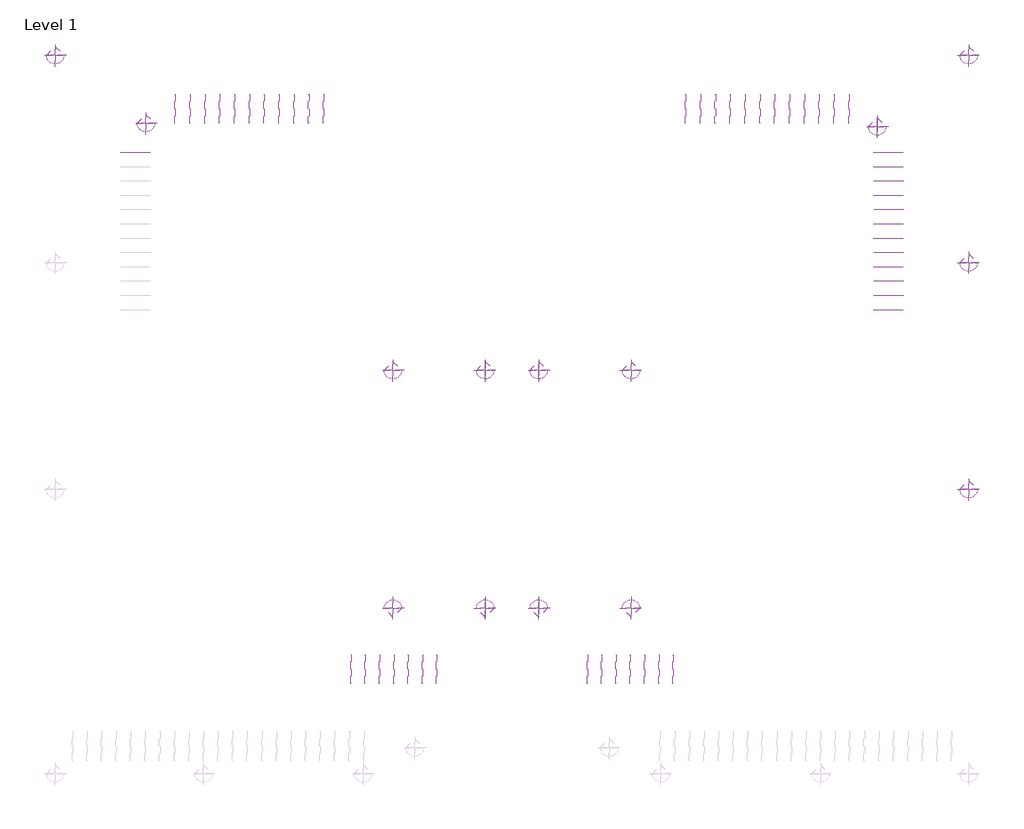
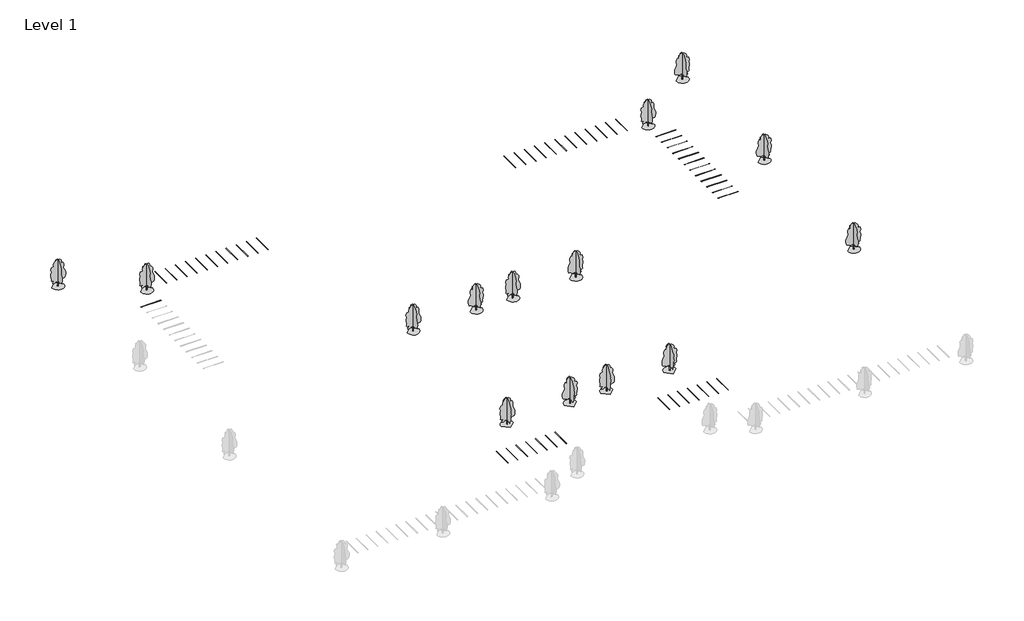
# One storey, part 2 of 2: 50 proxies, 14 geographic elements.
"""IFC4 building model written with IfcOpenShell, lengths in millimetres."""

import ifcopenshell
import ifcopenshell.guid

model = None  # the IFC model being written
_history = None  # IfcOwnerHistory: only IFC2X3 demands one
_inside = {}  # id of a spatial element -> (the spatial element, [elements in it])
_under = {}  # id of a project, library or spatial element -> (it, [spatial elements below it])
_declared = {}  # id of a project -> (the project, [libraries it declares])
_typed = {}  # id of a type object -> (the type object, [elements of that type])
_made_of = {}  # id of a material, layer set ... -> (it, [elements and type objects made of it])


def new_model(schema):
    """Start an empty IFC model of exactly this schema.

    Asked for "IFC4X3", IfcOpenShell would pick the latest addendum, in which some entities
    have other attributes; the version numbers below select the first issue.
    IFC2X3 requires an IfcOwnerHistory on every rooted entity: one is made here for all.
    """
    global model, _history
    if schema == "IFC4X3":
        model = ifcopenshell.file(schema_version=(4, 3, 0, 0))
    else:
        model = ifcopenshell.file(schema=schema)
    _inside.clear()
    _under.clear()
    _declared.clear()
    _typed.clear()
    _made_of.clear()
    _history = None
    if model.schema == "IFC2X3":
        org = make("IfcOrganization", Name="unknown")
        user = make(
            "IfcPersonAndOrganization",
            ThePerson=make("IfcPerson", FamilyName="unknown"),
            TheOrganization=org,
        )
        app = make(
            "IfcApplication",
            ApplicationDeveloper=org,
            Version="unknown",
            ApplicationFullName="unknown",
            ApplicationIdentifier="unknown",
        )
        _history = make(
            "IfcOwnerHistory",
            OwningUser=user,
            OwningApplication=app,
            ChangeAction="ADDED",
            CreationDate=0,
        )
    return model


def make(cls, **values):
    """One entity of the class cls with the attributes given. An attribute that is None is left unset."""
    return model.create_entity(
        cls, **{name: value for name, value in values.items() if value is not None}
    )


def rooted(cls, **values):
    """An entity with a GlobalId (a new one), such as an element, a storey or a relation."""
    return make(cls, GlobalId=ifcopenshell.guid.new(), OwnerHistory=_history, **values)


def si_unit(unit_type, name, prefix=None):
    """IfcSIUnit, for example si_unit("LENGTHUNIT", "METRE", prefix="MILLI")."""
    return make("IfcSIUnit", UnitType=unit_type, Prefix=prefix, Name=name)


def assignment(units):
    """IfcUnitAssignment: the units of a project."""
    return None if units is None else make("IfcUnitAssignment", Units=units)


def point(xyz):
    """IfcCartesianPoint."""
    return None if xyz is None else make("IfcCartesianPoint", Coordinates=xyz)


def direction(xyz):
    """IfcDirection."""
    return None if xyz is None else make("IfcDirection", DirectionRatios=xyz)


def frame(location, z_axis=None, x_axis=None):
    """IfcAxis2Placement3D, a coordinate frame: its origin and axes. An axis left out is left unset."""
    return make(
        "IfcAxis2Placement3D",
        Location=point(location),
        Axis=direction(z_axis),
        RefDirection=direction(x_axis),
    )


def origin():
    """The frame at (0, 0, 0) with its axes left unset."""
    return frame((0.0, 0.0, 0.0))


def origin_with_axes():
    """The frame at (0, 0, 0) with the z axis (0, 0, 1) and the x axis (1, 0, 0) written out."""
    return frame((0.0, 0.0, 0.0), z_axis=(0.0, 0.0, 1.0), x_axis=(1.0, 0.0, 0.0))


def place(relative_to, where):
    """IfcLocalPlacement: puts the frame where relative to a parent placement (None: the world)."""
    return make(
        "IfcLocalPlacement", PlacementRelTo=relative_to, RelativePlacement=where
    )


def context(
    kind, dimensions, precision=None, world=None, true_north=None, identifier=None
):
    """IfcGeometricRepresentationContext, for example the 3D "Model" context."""
    return make(
        "IfcGeometricRepresentationContext",
        ContextIdentifier=identifier,
        ContextType=kind,
        CoordinateSpaceDimension=dimensions,
        Precision=precision,
        WorldCoordinateSystem=world,
        TrueNorth=true_north,
    )


def project(units=None, contexts=None):
    """IfcProject with its units and contexts."""
    return rooted(
        "IfcProject",
        Name="project",
        RepresentationContexts=contexts,
        UnitsInContext=assignment(units),
    )


def spatial(cls, under=None, at=None, **own):
    """A site, building, storey or space (cls), placed at a placement, below another one or the project."""
    s = rooted(cls, ObjectPlacement=at, **own)
    if under is not None:
        _under.setdefault(under.id(), (under, []))[1].append(s)
    return s


def polyline(points):
    """IfcPolyline through the points."""
    return make("IfcPolyline", Points=[point(p) for p in points])


def point_list(points):
    """IfcCartesianPointList2D or 3D."""
    cls = (
        "IfcCartesianPointList2D" if len(points[0]) == 2 else "IfcCartesianPointList3D"
    )
    return make(cls, CoordList=points)


def outline(outer, holes=None, kind="AREA"):
    """IfcArbitraryClosedProfileDef: a profile drawn as a closed curve; with holes, ...WithVoids."""
    if holes is None:
        return make("IfcArbitraryClosedProfileDef", ProfileType=kind, OuterCurve=outer)
    return make(
        "IfcArbitraryProfileDefWithVoids",
        ProfileType=kind,
        OuterCurve=outer,
        InnerCurves=holes,
    )


def extrude(swept, where, along, depth):
    """IfcExtrudedAreaSolid: the profile swept, set in the frame where, extruded along a direction by depth."""
    return make(
        "IfcExtrudedAreaSolid",
        SweptArea=swept,
        Position=where,
        ExtrudedDirection=direction(along),
        Depth=depth,
    )


def triangles(points, corners, closed=None, point_numbers=None):
    """IfcTriangulatedFaceSet: each triangle names its three corners, points numbered from 1."""
    return make(
        "IfcTriangulatedFaceSet",
        Coordinates=point_list(points),
        Closed=closed,
        CoordIndex=corners,
        PnIndex=point_numbers,
    )


def shape(context_of_items, identifier, shape_type, items):
    """IfcShapeRepresentation: the items that make up one representation, for example the "Body"."""
    return make(
        "IfcShapeRepresentation",
        ContextOfItems=context_of_items,
        RepresentationIdentifier=identifier,
        RepresentationType=shape_type,
        Items=items,
    )


def source(mapping_origin, context_of_items, identifier, shape_type, items):
    """IfcRepresentationMap: a shape defined once, which mapped items show again and again."""
    return make(
        "IfcRepresentationMap",
        MappingOrigin=mapping_origin,
        MappedRepresentation=shape(context_of_items, identifier, shape_type, items),
    )


def transform(
    local_origin,
    x_axis=None,
    y_axis=None,
    z_axis=None,
    scale=None,
    scale2=None,
    scale3=None,
    uniform=True,
):
    """IfcCartesianTransformationOperator3D, or its non-uniform kind. x_axis, y_axis, z_axis: its Axis1, 2, 3."""
    if uniform:
        return make(
            "IfcCartesianTransformationOperator3D",
            Axis1=direction(x_axis),
            Axis2=direction(y_axis),
            LocalOrigin=point(local_origin),
            Scale=scale,
            Axis3=direction(z_axis),
        )
    return make(
        "IfcCartesianTransformationOperator3DnonUniform",
        Axis1=direction(x_axis),
        Axis2=direction(y_axis),
        LocalOrigin=point(local_origin),
        Scale=scale,
        Axis3=direction(z_axis),
        Scale2=scale2,
        Scale3=scale3,
    )


def mapped(mapping_source, mapping_target):
    """IfcMappedItem: shows the shape of a source again, moved by a transform."""
    return make(
        "IfcMappedItem", MappingSource=mapping_source, MappingTarget=mapping_target
    )


def made_of(thing, what):
    """Note that an element or type object is made of a material, layer set ...; save() writes the relation."""
    if what is not None:
        _made_of.setdefault(what.id(), (what, []))[1].append(thing)
    return thing


def element(
    cls,
    number,
    at=None,
    inside=None,
    cuts=None,
    type_object=None,
    material=None,
    context=None,
    identifier="Body",
    shape_type=None,
    held_by="IfcProductDefinitionShape",
    body=None,
    shapes=None,
    **own,
):
    """One element of the class cls, such as IfcWall. Its Tag is "e" and its number.

    at: its placement. inside: the storey or other place that contains it. cuts: it is an
    opening in that element (IfcRelVoidsElement). A single representation is given by context,
    identifier, shape_type and body (its items); several are given by shapes. held_by: the class
    of the entity that holds the representations. save() writes the other relations.
    """
    e = rooted(cls, Tag="e%d" % number, ObjectPlacement=at, **own)
    if body is not None:
        shapes = [shape(context, identifier, shape_type, body)]
    if shapes is not None:
        e.Representation = make(held_by, Representations=shapes)
    if inside is not None:
        _inside.setdefault(inside.id(), (inside, []))[1].append(e)
    if cuts is not None:
        rooted(
            "IfcRelVoidsElement", RelatingBuildingElement=cuts, RelatedOpeningElement=e
        )
    if type_object is not None:
        _typed.setdefault(type_object.id(), (type_object, []))[1].append(e)
    return made_of(e, material)


def aggregate(whole, parts):
    """IfcRelAggregates: a whole, such as a stair, and the parts it consists of."""
    return rooted("IfcRelAggregates", RelatingObject=whole, RelatedObjects=parts)


def save(model, path):
    """Write the relations noted so far, then the file.

    IfcRelAggregates (storeys below a building ...), IfcRelContainedInSpatialStructure (elements
    in a storey), IfcRelDefinesByType, IfcRelAssociatesMaterial and IfcRelDeclares: one each for
    every whole, place, type object, material and project.
    """
    for whole, parts in _under.values():
        aggregate(whole, parts)
    for where, things in _inside.values():
        rooted(
            "IfcRelContainedInSpatialStructure",
            RelatedElements=things,
            RelatingStructure=where,
        )
    for kind, things in _typed.values():
        rooted("IfcRelDefinesByType", RelatedObjects=things, RelatingType=kind)
    for what, things in _made_of.values():
        rooted("IfcRelAssociatesMaterial", RelatedObjects=things, RelatingMaterial=what)
    for by, libraries in _declared.values():
        rooted("IfcRelDeclares", RelatingContext=by, RelatedDefinitions=libraries)
    model.write(path)


def parking_space_9_x_18_90_deg_9fe051ab(model_context):
    return source(origin(), model_context, "Body", "SweptSolid", [
        extrude(outline(polyline([(-50.8, 0.0), (-50.8, 5486.4), (50.8, 5486.4), (50.8, 0.0), (-50.8, 0.0)])), origin_with_axes(), (0.0, 0.0, 1.0), 3.175),
    ])


def parking_space_9_x_18_90_deg_b8b21359(model_context):
    return source(origin(), model_context, "Body", "SweptSolid", [
        extrude(outline(polyline([(-50.8, 0.0), (50.8, 0.0), (50.8, -5486.4), (-50.8, -5486.4), (-50.8, 0.0)])), origin_with_axes(), (0.0, 0.0, 1.0), 3.175),
    ])


def rpc_tree_deciduous_red_ash_25_14781bec(model_context):
    return source(origin(), model_context, "Body", "Tessellation", [
        triangles([(-1644.9525009, 0.0, 6.19e-05), (-1601.4651844, -376.9143482, 6.19e-05), (-1477.6144592, -723.0498339, 6.19e-05), (-1283.3164352, -1028.4894024, 6.19e-05), (-1028.4894751, -1283.3165806, 6.19e-05), (-723.0496885, -1477.6140232, 6.19e-05), (-376.9141665, -1601.4651844, 6.19e-05), (7.19e-05, -1644.9525009, 6.19e-05), (376.9143846, -1601.4651844, 6.19e-05), (723.0499065, -1477.6143139, 6.19e-05), (1028.4894751, -1283.3164352, 6.19e-05), (1283.3168713, -1028.4894751, 6.19e-05), (1477.6141685, -723.0496159, 6.19e-05), (1601.4651844, -376.9140939, 6.19e-05), (1644.9525009, 0.0001438, 6.19e-05), (-0.0002157, 1644.9525009, 6.19e-05), (-1.07e-05, -102.8462569, 0.0), (2.5e-05, -101.2467179, 1194.554048), (3.23e-05, -129.8819613, 1537.8029366), (7e-07, -438.8253948, 1558.1655018), (-5.78e-05, -976.3912743, 1478.3068588), (-0.0001405, -1903.692667, 1948.6771305), (-0.0001413, -2011.2060173, 2298.095192), (-0.0001361, -2145.5975235, 2943.1744217), (-0.0001119, -2105.2803623, 3615.1319527), (-5.81e-05, -1740.3819958, 4141.0172951), (-5.5e-06, -1527.3986298, 5160.6350006), (-3.5e-06, -1715.5451397, 5886.3488434), (4.79e-05, -1406.4449661, 6531.4286545), (0.0001569, -626.9743755, 7458.7301926), (0.0001985, -273.2007115, 7618.1942963), (0.0002662, 394.4016166, 7552.8046829), (0.0003121, 1026.0418774, 6880.8468613), (0.0003149, 1214.190204, 6316.4022446), (0.0003323, 1496.411277, 5913.2274353), (0.0003598, 1805.5131947, 5751.9582092), (0.0003531, 1818.9521999, 5483.1746155), (0.0003523, 1899.587249, 5174.0742966), (0.0003275, 1765.1957428, 4811.2170845), (0.0003297, 1886.1480984, 4461.7991684), (0.0003279, 2007.1004539, 3977.9897461), (0.0003211, 1980.222298, 3843.5979492), (0.0002877, 1751.7567375, 3521.0580437), (0.0002729, 1737.3115437, 3077.5662186), (0.0002632, 1724.8782909, 2795.3439102), (0.0002542, 1738.3174416, 2445.9262848), (0.0002412, 1751.7568829, 1962.1167171), (0.0002172, 1563.6084835, 1814.2857697), (0.0001807, 1214.1907127, 1814.2857697), (0.0001827, 1375.4605202, 1317.0371967), (0.0001715, 1348.4951603, 1034.8845062), (0.0001516, 1103.0310734, 1227.8363914), (9.86e-05, 629.4626684, 1106.7075932), (9.8e-05, 551.7118183, 1357.0609165), (6.29e-05, 215.9127657, 1354.0025276), (5.03e-05, 130.8012366, 1228.3346169), (3.27e-05, 79.5493323, 818.2831198), (1.17e-05, 112.1660096, 1.28e-05), (-110.870867, 4.8e-06, 4.46e-05), (-66.7114758, -9.64e-05, 833.5016676), (-129.3072962, -0.000136, 1187.9435503), (-290.7878647, -0.00015, 1365.31768), (-483.6364677, -0.0001408, 1358.6964272), (-796.2678211, -0.000103, 1155.7673166), (-1427.9080456, -6.9e-05, 1102.0108595), (-1419.1706429, -7.35e-05, 1136.7646975), (-1409.8454853, -7.82e-05, 1172.6938271), (-1399.3449635, -8.32e-05, 1210.9736853), (-1387.0813225, -8.87e-05, 1252.7803631), (-1372.4668076, -9.49e-05, 1299.2876987), (-1354.9136639, -0.0001019, 1351.6733093), (-1333.8341366, -0.0001099, 1411.1111057), (-1307.2693336, -0.0001176, 1466.2392815), (-1274.3570984, -0.0001239, 1506.556588), (-1236.1555058, -0.0001289, 1534.5316246), (-1193.7220493, -0.0001329, 1552.6338627), (-1148.1152401, -0.0001362, 1563.3300121), (-1100.3923536, -0.000139, 1569.0895443), (-1051.6116829, -0.0001415, 1572.3809132), (-1199.4421944, -0.0001703, 1868.0423721), (-1629.4953049, -0.0001418, 1787.4073231), (-1871.3997253, -0.0001601, 2029.3124702), (-1723.5690685, -0.0001874, 2204.0214283), (-1763.886375, -0.0002433, 2687.8309959), (-1911.7170319, -0.0003442, 3588.2539421), (-1898.4807758, -0.0003892, 3961.1654823), (-1719.9175472, -0.0004688, 4563.3255295), (-1952.0346291, -0.0005347, 5200.9523071), (-1777.3253803, -0.000616, 5819.1535263), (-1414.4687496, -0.0006447, 5926.6667313), (-1138.413216, -0.0006626, 5975.3625961), (-1239.7599369, -0.0007228, 6517.9893585), (-930.6591093, -0.000802, 7068.9952606), (-352.7753057, -0.0008898, 7593.1219894), (117.5946844, -0.0009135, 7620.0), (534.2087442, -0.0009301, 7606.5601227), (883.626733, -0.0008893, 7136.1905777), (947.8720848, -0.00081, 6447.5180786), (938.6469212, -0.0007795, 6194.9695404), (1286.8011063, -0.0008333, 6517.9893585), (1622.7800171, -0.0007823, 5966.9840378), (1609.3410118, -0.0007196, 5446.5094116), (1549.4574577, -0.00064, 4800.6520317), (1743.7323727, -0.0005809, 4233.3331718), (2131.7640656, -0.0005067, 3469.1978371), (2144.1354034, -0.0004386, 2892.8094727), (2066.2719875, -0.0003531, 2204.021283), (1945.319632, -0.0003141, 1921.7989746), (1703.4147755, -0.0003004, 1894.9206734), (1233.0446491, -0.0002542, 1679.8941181), (816.4305439, -0.0002007, 1384.2328045), (257.4765441, -0.0002049, 1624.5688614), (93.0508701, -0.0001766, 1447.6347485), (104.1552431, -4.6e-06, 3.52e-05)], [[15, 16, 1], [14, 15, 1], [14, 1, 2], [13, 14, 2], [13, 2, 3], [13, 3, 4], [12, 13, 4], [11, 12, 4], [11, 4, 5], [11, 5, 6], [11, 6, 7], [11, 7, 8], [11, 8, 9], [11, 9, 10], [50, 51, 52], [57, 58, 17], [57, 17, 18], [56, 57, 18], [56, 18, 19], [55, 56, 19], [49, 50, 52], [52, 53, 54], [49, 52, 54], [35, 36, 37], [46, 47, 48], [46, 48, 49], [21, 22, 23], [20, 21, 23], [20, 23, 24], [20, 24, 25], [20, 25, 26], [19, 20, 26], [19, 26, 27], [45, 46, 49], [31, 32, 33], [30, 31, 33], [29, 30, 33], [29, 33, 34], [28, 29, 34], [27, 28, 34], [19, 27, 34], [19, 34, 35], [19, 35, 37], [19, 37, 38], [19, 38, 39], [19, 39, 40], [19, 40, 41], [19, 41, 42], [19, 42, 43], [19, 43, 44], [19, 44, 45], [19, 45, 49], [19, 49, 54], [55, 19, 54], [64, 65, 66], [64, 66, 67], [64, 67, 68], [99, 100, 101], [64, 68, 69], [64, 69, 70], [64, 70, 71], [114, 59, 60], [113, 114, 60], [113, 60, 61], [113, 61, 62], [64, 71, 72], [64, 72, 73], [64, 73, 74], [64, 74, 75], [64, 75, 76], [64, 76, 77], [64, 77, 78], [64, 78, 79], [63, 64, 79], [81, 82, 83], [80, 81, 83], [99, 101, 102], [107, 108, 109], [110, 111, 112], [88, 89, 90], [87, 88, 90], [87, 90, 91], [80, 83, 84], [95, 96, 97], [95, 97, 98], [94, 95, 98], [93, 94, 98], [92, 93, 98], [91, 92, 98], [91, 98, 99], [87, 91, 99], [87, 99, 102], [87, 102, 103], [87, 103, 104], [86, 87, 104], [85, 86, 104], [84, 85, 104], [80, 84, 104], [80, 104, 105], [80, 105, 106], [80, 106, 107], [80, 107, 109], [80, 109, 110], [80, 110, 112], [79, 80, 112], [63, 79, 112], [62, 63, 112], [113, 62, 112]], closed=False),
    ])


def rpc_tree_deciduous_red_ash_25_de8497d4(model_context):
    return source(origin(), model_context, "Body", "Tessellation", [
        triangles([(-1644.9525009, 0.0, 6.19e-05), (-1601.4651844, 376.9143482, 6.19e-05), (-1477.6144592, 723.0498339, 6.19e-05), (-1283.3164352, 1028.4894024, 6.19e-05), (-1028.4894751, 1283.3165806, 6.19e-05), (-723.0496885, 1477.6140232, 6.19e-05), (-376.9141665, 1601.4651844, 6.19e-05), (7.19e-05, 1644.9525009, 6.19e-05), (376.9143846, 1601.4651844, 6.19e-05), (723.0499065, 1477.6143139, 6.19e-05), (1028.4894751, 1283.3164352, 6.19e-05), (1283.3168713, 1028.4894751, 6.19e-05), (1477.6141685, 723.0496159, 6.19e-05), (1601.4651844, 376.9140939, 6.19e-05), (1644.9525009, -0.0001438, 6.19e-05), (-0.0002157, -1644.9525009, 6.19e-05), (-1.07e-05, 102.8462569, 0.0), (2.5e-05, 101.2467179, 1194.554048), (3.23e-05, 129.8819613, 1537.8029366), (7e-07, 438.8253948, 1558.1655018), (-5.78e-05, 976.3912743, 1478.3068588), (-0.0001405, 1903.692667, 1948.6771305), (-0.0001413, 2011.2060173, 2298.095192), (-0.0001361, 2145.5975235, 2943.1744217), (-0.0001119, 2105.2803623, 3615.1319527), (-5.81e-05, 1740.3819958, 4141.0172951), (-5.5e-06, 1527.3986298, 5160.6350006), (-3.5e-06, 1715.5451397, 5886.3488434), (4.79e-05, 1406.4449661, 6531.4286545), (0.0001569, 626.9743755, 7458.7301926), (0.0001985, 273.2007115, 7618.1942963), (0.0002662, -394.4016166, 7552.8046829), (0.0003121, -1026.0418774, 6880.8468613), (0.0003149, -1214.190204, 6316.4022446), (0.0003323, -1496.411277, 5913.2274353), (0.0003598, -1805.5131947, 5751.9582092), (0.0003531, -1818.9521999, 5483.1746155), (0.0003523, -1899.587249, 5174.0742966), (0.0003275, -1765.1957428, 4811.2170845), (0.0003297, -1886.1480984, 4461.7991684), (0.0003279, -2007.1004539, 3977.9897461), (0.0003211, -1980.222298, 3843.5979492), (0.0002877, -1751.7567375, 3521.0580437), (0.0002729, -1737.3115437, 3077.5662186), (0.0002632, -1724.8782909, 2795.3439102), (0.0002542, -1738.3174416, 2445.9262848), (0.0002412, -1751.7568829, 1962.1167171), (0.0002172, -1563.6084835, 1814.2857697), (0.0001807, -1214.1907127, 1814.2857697), (0.0001827, -1375.4605202, 1317.0371967), (0.0001715, -1348.4951603, 1034.8845062), (0.0001516, -1103.0310734, 1227.8363914), (9.86e-05, -629.4626684, 1106.7075932), (9.8e-05, -551.7118183, 1357.0609165), (6.29e-05, -215.9127657, 1354.0025276), (5.03e-05, -130.8012366, 1228.3346169), (3.27e-05, -79.5493323, 818.2831198), (1.17e-05, -112.1660096, 1.28e-05), (-110.870867, -4.8e-06, 4.46e-05), (-66.7114758, 9.64e-05, 833.5016676), (-129.3072962, 0.000136, 1187.9435503), (-290.7878647, 0.00015, 1365.31768), (-483.6364677, 0.0001408, 1358.6964272), (-796.2678211, 0.000103, 1155.7673166), (-1427.9080456, 6.9e-05, 1102.0108595), (-1419.1706429, 7.35e-05, 1136.7646975), (-1409.8454853, 7.82e-05, 1172.6938271), (-1399.3449635, 8.32e-05, 1210.9736853), (-1387.0813225, 8.87e-05, 1252.7803631), (-1372.4668076, 9.49e-05, 1299.2876987), (-1354.9136639, 0.0001019, 1351.6733093), (-1333.8341366, 0.0001099, 1411.1111057), (-1307.2693336, 0.0001176, 1466.2392815), (-1274.3570984, 0.0001239, 1506.556588), (-1236.1555058, 0.0001289, 1534.5316246), (-1193.7220493, 0.0001329, 1552.6338627), (-1148.1152401, 0.0001362, 1563.3300121), (-1100.3923536, 0.000139, 1569.0895443), (-1051.6116829, 0.0001415, 1572.3809132), (-1199.4421944, 0.0001703, 1868.0423721), (-1629.4953049, 0.0001418, 1787.4073231), (-1871.3997253, 0.0001601, 2029.3124702), (-1723.5690685, 0.0001874, 2204.0214283), (-1763.886375, 0.0002433, 2687.8309959), (-1911.7170319, 0.0003442, 3588.2539421), (-1898.4807758, 0.0003892, 3961.1654823), (-1719.9175472, 0.0004688, 4563.3255295), (-1952.0346291, 0.0005347, 5200.9523071), (-1777.3253803, 0.000616, 5819.1535263), (-1414.4687496, 0.0006447, 5926.6667313), (-1138.413216, 0.0006626, 5975.3625961), (-1239.7599369, 0.0007228, 6517.9893585), (-930.6591093, 0.000802, 7068.9952606), (-352.7753057, 0.0008898, 7593.1219894), (117.5946844, 0.0009135, 7620.0), (534.2087442, 0.0009301, 7606.5601227), (883.626733, 0.0008893, 7136.1905777), (947.8720848, 0.00081, 6447.5180786), (938.6469212, 0.0007795, 6194.9695404), (1286.8011063, 0.0008333, 6517.9893585), (1622.7800171, 0.0007823, 5966.9840378), (1609.3410118, 0.0007196, 5446.5094116), (1549.4574577, 0.00064, 4800.6520317), (1743.7323727, 0.0005809, 4233.3331718), (2131.7640656, 0.0005067, 3469.1978371), (2144.1354034, 0.0004386, 2892.8094727), (2066.2719875, 0.0003531, 2204.021283), (1945.319632, 0.0003141, 1921.7989746), (1703.4147755, 0.0003004, 1894.9206734), (1233.0446491, 0.0002542, 1679.8941181), (816.4305439, 0.0002007, 1384.2328045), (257.4765441, 0.0002049, 1624.5688614), (93.0508701, 0.0001766, 1447.6347485), (104.1552431, 4.6e-06, 3.52e-05)], [[16, 15, 1], [15, 14, 1], [1, 14, 2], [14, 13, 2], [2, 13, 3], [3, 13, 4], [13, 12, 4], [12, 11, 4], [4, 11, 5], [5, 11, 6], [6, 11, 7], [7, 11, 8], [8, 11, 9], [9, 11, 10], [51, 50, 52], [58, 57, 17], [17, 57, 18], [57, 56, 18], [18, 56, 19], [56, 55, 19], [50, 49, 52], [53, 52, 54], [52, 49, 54], [36, 35, 37], [47, 46, 48], [48, 46, 49], [22, 21, 23], [21, 20, 23], [23, 20, 24], [24, 20, 25], [25, 20, 26], [20, 19, 26], [26, 19, 27], [46, 45, 49], [32, 31, 33], [31, 30, 33], [30, 29, 33], [33, 29, 34], [29, 28, 34], [28, 27, 34], [27, 19, 34], [34, 19, 35], [35, 19, 37], [37, 19, 38], [38, 19, 39], [39, 19, 40], [40, 19, 41], [41, 19, 42], [42, 19, 43], [43, 19, 44], [44, 19, 45], [45, 19, 49], [49, 19, 54], [19, 55, 54], [65, 64, 66], [66, 64, 67], [67, 64, 68], [100, 99, 101], [68, 64, 69], [69, 64, 70], [70, 64, 71], [59, 114, 60], [114, 113, 60], [60, 113, 61], [61, 113, 62], [71, 64, 72], [72, 64, 73], [73, 64, 74], [74, 64, 75], [75, 64, 76], [76, 64, 77], [77, 64, 78], [78, 64, 79], [64, 63, 79], [82, 81, 83], [81, 80, 83], [101, 99, 102], [108, 107, 109], [111, 110, 112], [89, 88, 90], [88, 87, 90], [90, 87, 91], [83, 80, 84], [96, 95, 97], [97, 95, 98], [95, 94, 98], [94, 93, 98], [93, 92, 98], [92, 91, 98], [98, 91, 99], [91, 87, 99], [99, 87, 102], [102, 87, 103], [103, 87, 104], [87, 86, 104], [86, 85, 104], [85, 84, 104], [84, 80, 104], [104, 80, 105], [105, 80, 106], [106, 80, 107], [107, 80, 109], [109, 80, 110], [110, 80, 112], [80, 79, 112], [79, 63, 112], [63, 62, 112], [62, 113, 112]], closed=False),
    ])


model = new_model("IFC4")

# Units and contexts
model_context = context("Model", 3, world=origin())
ifc_project = project(units=[si_unit("LENGTHUNIT", "METRE", prefix="MILLI")], contexts=[model_context])

# Site, building, storey
site = spatial("IfcSite", under=ifc_project)
building = spatial("IfcBuilding", under=site)
storey = spatial("IfcBuildingStorey", under=building, Name="Level 1", Elevation=0.0)

# Proxies
placement = place(None, origin())
parking_space_9_x_18_90_deg_shape = parking_space_9_x_18_90_deg_9fe051ab(model_context)
element("IfcBuildingElementProxy", 1, Name="Parking Space : 9' x 18' - 90 deg", ObjectType="Parking Space : 9' x 18' - 90 deg", at=placement, inside=storey, context=model_context, shape_type="MappedRepresentation", body=[
    mapped(parking_space_9_x_18_90_deg_shape, transform((-26963.9619016, -16596.3218628, 3124.2), x_axis=(-1.0, 0.0, 0.0), y_axis=(0.0, -1.0, 0.0), z_axis=(0.0, 0.0, 1.0))),
])
element("IfcBuildingElementProxy", 2, Name="Parking Space : 9' x 18' - 90 deg", ObjectType="Parking Space : 9' x 18' - 90 deg", at=placement, inside=storey, context=model_context, shape_type="MappedRepresentation", body=[
    mapped(parking_space_9_x_18_90_deg_shape, transform((-29757.9619016, -16596.3218628, 3124.2), x_axis=(-1.0, 0.0, 0.0), y_axis=(0.0, -1.0, 0.0), z_axis=(0.0, 0.0, 1.0))),
])
element("IfcBuildingElementProxy", 3, Name="Parking Space : 9' x 18' - 90 deg", ObjectType="Parking Space : 9' x 18' - 90 deg", at=placement, inside=storey, context=model_context, shape_type="MappedRepresentation", body=[
    mapped(parking_space_9_x_18_90_deg_shape, transform((-32551.9619016, -16596.3218628, 3124.2), x_axis=(-1.0, 0.0, 0.0), y_axis=(0.0, -1.0, 0.0), z_axis=(0.0, 0.0, 1.0))),
])
element("IfcBuildingElementProxy", 4, Name="Parking Space : 9' x 18' - 90 deg", ObjectType="Parking Space : 9' x 18' - 90 deg", at=placement, inside=storey, context=model_context, shape_type="MappedRepresentation", body=[
    mapped(parking_space_9_x_18_90_deg_shape, transform((-35345.9619016, -16596.3218628, 3124.2), x_axis=(-1.0, 0.0, 0.0), y_axis=(0.0, -1.0, 0.0), z_axis=(0.0, 0.0, 1.0))),
])
element("IfcBuildingElementProxy", 5, Name="Parking Space : 9' x 18' - 90 deg", ObjectType="Parking Space : 9' x 18' - 90 deg", at=placement, inside=storey, context=model_context, shape_type="MappedRepresentation", body=[
    mapped(parking_space_9_x_18_90_deg_shape, transform((-38139.9619016, -16596.3218628, 3124.2), x_axis=(-1.0, 0.0, 0.0), y_axis=(0.0, -1.0, 0.0), z_axis=(0.0, 0.0, 1.0))),
])
element("IfcBuildingElementProxy", 6, Name="Parking Space : 9' x 18' - 90 deg", ObjectType="Parking Space : 9' x 18' - 90 deg", at=placement, inside=storey, context=model_context, shape_type="MappedRepresentation", body=[
    mapped(parking_space_9_x_18_90_deg_shape, transform((-40933.9619016, -16596.3218628, 3124.2), x_axis=(-1.0, 0.0, 0.0), y_axis=(0.0, -1.0, 0.0), z_axis=(0.0, 0.0, 1.0))),
])
element("IfcBuildingElementProxy", 7, Name="Parking Space : 9' x 18' - 90 deg", ObjectType="Parking Space : 9' x 18' - 90 deg", at=placement, inside=storey, context=model_context, shape_type="MappedRepresentation", body=[
    mapped(parking_space_9_x_18_90_deg_shape, transform((-43727.9619016, -16596.3218628, 3124.2), x_axis=(-1.0, 0.0, 0.0), y_axis=(0.0, -1.0, 0.0), z_axis=(0.0, 0.0, 1.0))),
])
element("IfcBuildingElementProxy", 8, Name="Parking Space : 9' x 18' - 90 deg", ObjectType="Parking Space : 9' x 18' - 90 deg", at=placement, inside=storey, context=model_context, shape_type="MappedRepresentation", body=[
    mapped(parking_space_9_x_18_90_deg_shape, transform((-46521.9619016, -16596.3218628, 3124.2), x_axis=(-1.0, 0.0, 0.0), y_axis=(0.0, -1.0, 0.0), z_axis=(0.0, 0.0, 1.0))),
])
element("IfcBuildingElementProxy", 9, Name="Parking Space : 9' x 18' - 90 deg", ObjectType="Parking Space : 9' x 18' - 90 deg", at=placement, inside=storey, context=model_context, shape_type="MappedRepresentation", body=[
    mapped(parking_space_9_x_18_90_deg_shape, transform((-49315.9619016, -16596.3218628, 3124.2), x_axis=(-1.0, 0.0, 0.0), y_axis=(0.0, -1.0, 0.0), z_axis=(0.0, 0.0, 1.0))),
])
element("IfcBuildingElementProxy", 10, Name="Parking Space : 9' x 18' - 90 deg", ObjectType="Parking Space : 9' x 18' - 90 deg", at=placement, inside=storey, context=model_context, shape_type="MappedRepresentation", body=[
    mapped(parking_space_9_x_18_90_deg_shape, transform((-52109.9619016, -16596.3218628, 3124.2), x_axis=(-1.0, 0.0, 0.0), y_axis=(0.0, -1.0, 0.0), z_axis=(0.0, 0.0, 1.0))),
])
element("IfcBuildingElementProxy", 11, Name="Parking Space : 9' x 18' - 90 deg", ObjectType="Parking Space : 9' x 18' - 90 deg", at=placement, inside=storey, context=model_context, shape_type="MappedRepresentation", body=[
    mapped(parking_space_9_x_18_90_deg_shape, transform((-54903.9619016, -16596.3218628, 3124.2), x_axis=(-1.0, 0.0, 0.0), y_axis=(0.0, -1.0, 0.0), z_axis=(0.0, 0.0, 1.0))),
])
element("IfcBuildingElementProxy", 12, Name="Parking Space : 9' x 18' - 90 deg", ObjectType="Parking Space : 9' x 18' - 90 deg", at=placement, inside=storey, context=model_context, shape_type="MappedRepresentation", body=[
    mapped(parking_space_9_x_18_90_deg_shape, transform((-57697.9619016, -16596.3218628, 3124.2), x_axis=(-1.0, 0.0, 0.0), y_axis=(0.0, -1.0, 0.0), z_axis=(0.0, 0.0, 1.0))),
])
element("IfcBuildingElementProxy", 13, Name="Parking Space : 9' x 18' - 90 deg", ObjectType="Parking Space : 9' x 18' - 90 deg", at=placement, inside=storey, context=model_context, shape_type="MappedRepresentation", body=[
    mapped(parking_space_9_x_18_90_deg_shape, transform((-60034.7619016, -122057.1265137, 3124.2), x_axis=(-1.0, 0.0, 0.0), y_axis=(0.0, -1.0, 0.0), z_axis=(0.0, 0.0, 1.0))),
])
element("IfcBuildingElementProxy", 14, Name="Parking Space : 9' x 18' - 90 deg", ObjectType="Parking Space : 9' x 18' - 90 deg", at=placement, inside=storey, context=model_context, shape_type="MappedRepresentation", body=[
    mapped(parking_space_9_x_18_90_deg_shape, transform((-62727.1619016, -122057.1265137, 3124.2), x_axis=(-1.0, 0.0, 0.0), y_axis=(0.0, -1.0, 0.0), z_axis=(0.0, 0.0, 1.0))),
])
element("IfcBuildingElementProxy", 15, Name="Parking Space : 9' x 18' - 90 deg", ObjectType="Parking Space : 9' x 18' - 90 deg", at=placement, inside=storey, context=model_context, shape_type="MappedRepresentation", body=[
    mapped(parking_space_9_x_18_90_deg_shape, transform((-65419.5619016, -122057.1265137, 3124.2), x_axis=(-1.0, 0.0, 0.0), y_axis=(0.0, -1.0, 0.0), z_axis=(0.0, 0.0, 1.0))),
])
element("IfcBuildingElementProxy", 16, Name="Parking Space : 9' x 18' - 90 deg", ObjectType="Parking Space : 9' x 18' - 90 deg", at=placement, inside=storey, context=model_context, shape_type="MappedRepresentation", body=[
    mapped(parking_space_9_x_18_90_deg_shape, transform((-68111.9619016, -122057.1265137, 3124.2), x_axis=(-1.0, 0.0, 0.0), y_axis=(0.0, -1.0, 0.0), z_axis=(0.0, 0.0, 1.0))),
])
element("IfcBuildingElementProxy", 17, Name="Parking Space : 9' x 18' - 90 deg", ObjectType="Parking Space : 9' x 18' - 90 deg", at=placement, inside=storey, context=model_context, shape_type="MappedRepresentation", body=[
    mapped(parking_space_9_x_18_90_deg_shape, transform((-70804.3619016, -122057.1265137, 3124.2), x_axis=(-1.0, 0.0, 0.0), y_axis=(0.0, -1.0, 0.0), z_axis=(0.0, 0.0, 1.0))),
])
element("IfcBuildingElementProxy", 18, Name="Parking Space : 9' x 18' - 90 deg", ObjectType="Parking Space : 9' x 18' - 90 deg", at=placement, inside=storey, context=model_context, shape_type="MappedRepresentation", body=[
    mapped(parking_space_9_x_18_90_deg_shape, transform((-73496.7619016, -122057.1265137, 3124.2), x_axis=(-1.0, 0.0, 0.0), y_axis=(0.0, -1.0, 0.0), z_axis=(0.0, 0.0, 1.0))),
])
element("IfcBuildingElementProxy", 19, Name="Parking Space : 9' x 18' - 90 deg", ObjectType="Parking Space : 9' x 18' - 90 deg", at=placement, inside=storey, context=model_context, shape_type="MappedRepresentation", body=[
    mapped(parking_space_9_x_18_90_deg_shape, transform((-76189.1619016, -122057.1265137, 3124.2), x_axis=(-1.0, 0.0, 0.0), y_axis=(0.0, -1.0, 0.0), z_axis=(0.0, 0.0, 1.0))),
])
element("IfcBuildingElementProxy", 20, Name="Parking Space : 9' x 18' - 90 deg", ObjectType="Parking Space : 9' x 18' - 90 deg", at=placement, inside=storey, context=model_context, shape_type="MappedRepresentation", body=[
    mapped(parking_space_9_x_18_90_deg_shape, transform((-163971.5541504, -27569.1218628, 3124.2), x_axis=(0.0, -1.0, 0.0), y_axis=(1.0, 0.0, 0.0), z_axis=(0.0, 0.0, 1.0))),
])
parking_space_9_x_18_90_deg_2_shape = parking_space_9_x_18_90_deg_b8b21359(model_context)
element("IfcBuildingElementProxy", 21, Name="Parking Space : 9' x 18' - 90 deg", ObjectType="Parking Space : 9' x 18' - 90 deg", at=placement, inside=storey, context=model_context, shape_type="MappedRepresentation", body=[
    mapped(parking_space_9_x_18_90_deg_2_shape, transform((-153760.7541504, -16596.3218628, 3200.4), x_axis=(1.0, 0.0, 0.0), y_axis=(0.0, 1.0, 0.0), z_axis=(0.0, 0.0, 1.0))),
])
element("IfcBuildingElementProxy", 22, Name="Parking Space : 9' x 18' - 90 deg", ObjectType="Parking Space : 9' x 18' - 90 deg", at=placement, inside=storey, context=model_context, shape_type="MappedRepresentation", body=[
    mapped(parking_space_9_x_18_90_deg_2_shape, transform((-150966.7541504, -16596.3218628, 3124.2), x_axis=(1.0, 0.0, 0.0), y_axis=(0.0, 1.0, 0.0), z_axis=(0.0, 0.0, 1.0))),
])
element("IfcBuildingElementProxy", 23, Name="Parking Space : 9' x 18' - 90 deg", ObjectType="Parking Space : 9' x 18' - 90 deg", at=placement, inside=storey, context=model_context, shape_type="MappedRepresentation", body=[
    mapped(parking_space_9_x_18_90_deg_2_shape, transform((-148172.7541504, -16596.3218628, 3124.2), x_axis=(1.0, 0.0, 0.0), y_axis=(0.0, 1.0, 0.0), z_axis=(0.0, 0.0, 1.0))),
])
element("IfcBuildingElementProxy", 24, Name="Parking Space : 9' x 18' - 90 deg", ObjectType="Parking Space : 9' x 18' - 90 deg", at=placement, inside=storey, context=model_context, shape_type="MappedRepresentation", body=[
    mapped(parking_space_9_x_18_90_deg_2_shape, transform((-145378.7541504, -16596.3218628, 3124.2), x_axis=(1.0, 0.0, 0.0), y_axis=(0.0, 1.0, 0.0), z_axis=(0.0, 0.0, 1.0))),
])
element("IfcBuildingElementProxy", 25, Name="Parking Space : 9' x 18' - 90 deg", ObjectType="Parking Space : 9' x 18' - 90 deg", at=placement, inside=storey, context=model_context, shape_type="MappedRepresentation", body=[
    mapped(parking_space_9_x_18_90_deg_2_shape, transform((-142584.7541504, -16596.3218628, 3124.2), x_axis=(1.0, 0.0, 0.0), y_axis=(0.0, 1.0, 0.0), z_axis=(0.0, 0.0, 1.0))),
])
element("IfcBuildingElementProxy", 26, Name="Parking Space : 9' x 18' - 90 deg", ObjectType="Parking Space : 9' x 18' - 90 deg", at=placement, inside=storey, context=model_context, shape_type="MappedRepresentation", body=[
    mapped(parking_space_9_x_18_90_deg_2_shape, transform((-139790.7541504, -16596.3218628, 3124.2), x_axis=(1.0, 0.0, 0.0), y_axis=(0.0, 1.0, 0.0), z_axis=(0.0, 0.0, 1.0))),
])
element("IfcBuildingElementProxy", 27, Name="Parking Space : 9' x 18' - 90 deg", ObjectType="Parking Space : 9' x 18' - 90 deg", at=placement, inside=storey, context=model_context, shape_type="MappedRepresentation", body=[
    mapped(parking_space_9_x_18_90_deg_2_shape, transform((-136996.7541504, -16596.3218628, 3124.2), x_axis=(1.0, 0.0, 0.0), y_axis=(0.0, 1.0, 0.0), z_axis=(0.0, 0.0, 1.0))),
])
element("IfcBuildingElementProxy", 28, Name="Parking Space : 9' x 18' - 90 deg", ObjectType="Parking Space : 9' x 18' - 90 deg", at=placement, inside=storey, context=model_context, shape_type="MappedRepresentation", body=[
    mapped(parking_space_9_x_18_90_deg_2_shape, transform((-134202.7541504, -16596.3218628, 3124.2), x_axis=(1.0, 0.0, 0.0), y_axis=(0.0, 1.0, 0.0), z_axis=(0.0, 0.0, 1.0))),
])
element("IfcBuildingElementProxy", 29, Name="Parking Space : 9' x 18' - 90 deg", ObjectType="Parking Space : 9' x 18' - 90 deg", at=placement, inside=storey, context=model_context, shape_type="MappedRepresentation", body=[
    mapped(parking_space_9_x_18_90_deg_2_shape, transform((-131408.7541504, -16596.3218628, 3124.2), x_axis=(1.0, 0.0, 0.0), y_axis=(0.0, 1.0, 0.0), z_axis=(0.0, 0.0, 1.0))),
])
element("IfcBuildingElementProxy", 30, Name="Parking Space : 9' x 18' - 90 deg", ObjectType="Parking Space : 9' x 18' - 90 deg", at=placement, inside=storey, context=model_context, shape_type="MappedRepresentation", body=[
    mapped(parking_space_9_x_18_90_deg_2_shape, transform((-128614.7541504, -16596.3218628, 3124.2), x_axis=(1.0, 0.0, 0.0), y_axis=(0.0, 1.0, 0.0), z_axis=(0.0, 0.0, 1.0))),
])
element("IfcBuildingElementProxy", 31, Name="Parking Space : 9' x 18' - 90 deg", ObjectType="Parking Space : 9' x 18' - 90 deg", at=placement, inside=storey, context=model_context, shape_type="MappedRepresentation", body=[
    mapped(parking_space_9_x_18_90_deg_2_shape, transform((-125820.7541504, -16596.3218628, 3124.2), x_axis=(1.0, 0.0, 0.0), y_axis=(0.0, 1.0, 0.0), z_axis=(0.0, 0.0, 1.0))),
])
element("IfcBuildingElementProxy", 32, Name="Parking Space : 9' x 18' - 90 deg", ObjectType="Parking Space : 9' x 18' - 90 deg", at=placement, inside=storey, context=model_context, shape_type="MappedRepresentation", body=[
    mapped(parking_space_9_x_18_90_deg_2_shape, transform((-120689.9541504, -122057.1265137, 3200.4), x_axis=(1.0, 0.0, 0.0), y_axis=(0.0, 1.0, 0.0), z_axis=(0.0, 0.0, 1.0))),
])
element("IfcBuildingElementProxy", 33, Name="Parking Space : 9' x 18' - 90 deg", ObjectType="Parking Space : 9' x 18' - 90 deg", at=placement, inside=storey, context=model_context, shape_type="MappedRepresentation", body=[
    mapped(parking_space_9_x_18_90_deg_2_shape, transform((-117997.5541504, -122057.1265137, 3124.2), x_axis=(1.0, 0.0, 0.0), y_axis=(0.0, 1.0, 0.0), z_axis=(0.0, 0.0, 1.0))),
])
element("IfcBuildingElementProxy", 34, Name="Parking Space : 9' x 18' - 90 deg", ObjectType="Parking Space : 9' x 18' - 90 deg", at=placement, inside=storey, context=model_context, shape_type="MappedRepresentation", body=[
    mapped(parking_space_9_x_18_90_deg_2_shape, transform((-115305.1541504, -122057.1265137, 3124.2), x_axis=(1.0, 0.0, 0.0), y_axis=(0.0, 1.0, 0.0), z_axis=(0.0, 0.0, 1.0))),
])
element("IfcBuildingElementProxy", 35, Name="Parking Space : 9' x 18' - 90 deg", ObjectType="Parking Space : 9' x 18' - 90 deg", at=placement, inside=storey, context=model_context, shape_type="MappedRepresentation", body=[
    mapped(parking_space_9_x_18_90_deg_2_shape, transform((-112612.7541504, -122057.1265137, 3124.2), x_axis=(1.0, 0.0, 0.0), y_axis=(0.0, 1.0, 0.0), z_axis=(0.0, 0.0, 1.0))),
])
element("IfcBuildingElementProxy", 36, Name="Parking Space : 9' x 18' - 90 deg", ObjectType="Parking Space : 9' x 18' - 90 deg", at=placement, inside=storey, context=model_context, shape_type="MappedRepresentation", body=[
    mapped(parking_space_9_x_18_90_deg_2_shape, transform((-109920.3541504, -122057.1265137, 3124.2), x_axis=(1.0, 0.0, 0.0), y_axis=(0.0, 1.0, 0.0), z_axis=(0.0, 0.0, 1.0))),
])
element("IfcBuildingElementProxy", 37, Name="Parking Space : 9' x 18' - 90 deg", ObjectType="Parking Space : 9' x 18' - 90 deg", at=placement, inside=storey, context=model_context, shape_type="MappedRepresentation", body=[
    mapped(parking_space_9_x_18_90_deg_2_shape, transform((-107227.9541504, -122057.1265137, 3124.2), x_axis=(1.0, 0.0, 0.0), y_axis=(0.0, 1.0, 0.0), z_axis=(0.0, 0.0, 1.0))),
])
element("IfcBuildingElementProxy", 38, Name="Parking Space : 9' x 18' - 90 deg", ObjectType="Parking Space : 9' x 18' - 90 deg", at=placement, inside=storey, context=model_context, shape_type="MappedRepresentation", body=[
    mapped(parking_space_9_x_18_90_deg_2_shape, transform((-104535.5541504, -122057.1265137, 3124.2), x_axis=(1.0, 0.0, 0.0), y_axis=(0.0, 1.0, 0.0), z_axis=(0.0, 0.0, 1.0))),
])
element("IfcBuildingElementProxy", 39, Name="Parking Space : 9' x 18' - 90 deg", ObjectType="Parking Space : 9' x 18' - 90 deg", at=placement, inside=storey, context=model_context, shape_type="MappedRepresentation", body=[
    mapped(parking_space_9_x_18_90_deg_2_shape, transform((-16753.1619016, -27569.1218628, 3124.2), x_axis=(0.0, -1.0, 0.0), y_axis=(1.0, 0.0, 0.0), z_axis=(0.0, 0.0, 1.0))),
])
element("IfcBuildingElementProxy", 40, Name="Parking Space : 9' x 18' - 90 deg", ObjectType="Parking Space : 9' x 18' - 90 deg", at=placement, inside=storey, context=model_context, shape_type="MappedRepresentation", body=[
    mapped(parking_space_9_x_18_90_deg_2_shape, transform((-16753.1619016, -30261.5218628, 3124.2), x_axis=(0.0, -1.0, 0.0), y_axis=(1.0, 0.0, 0.0), z_axis=(0.0, 0.0, 1.0))),
])
element("IfcBuildingElementProxy", 41, Name="Parking Space : 9' x 18' - 90 deg", ObjectType="Parking Space : 9' x 18' - 90 deg", at=placement, inside=storey, context=model_context, shape_type="MappedRepresentation", body=[
    mapped(parking_space_9_x_18_90_deg_2_shape, transform((-16753.1619016, -32953.9218628, 3124.2), x_axis=(0.0, -1.0, 0.0), y_axis=(1.0, 0.0, 0.0), z_axis=(0.0, 0.0, 1.0))),
])
element("IfcBuildingElementProxy", 42, Name="Parking Space : 9' x 18' - 90 deg", ObjectType="Parking Space : 9' x 18' - 90 deg", at=placement, inside=storey, context=model_context, shape_type="MappedRepresentation", body=[
    mapped(parking_space_9_x_18_90_deg_2_shape, transform((-16753.1619016, -35646.3218628, 3124.2), x_axis=(0.0, -1.0, 0.0), y_axis=(1.0, 0.0, 0.0), z_axis=(0.0, 0.0, 1.0))),
])
element("IfcBuildingElementProxy", 43, Name="Parking Space : 9' x 18' - 90 deg", ObjectType="Parking Space : 9' x 18' - 90 deg", at=placement, inside=storey, context=model_context, shape_type="MappedRepresentation", body=[
    mapped(parking_space_9_x_18_90_deg_2_shape, transform((-16753.1619016, -38338.7218628, 3124.2), x_axis=(0.0, -1.0, 0.0), y_axis=(1.0, 0.0, 0.0), z_axis=(0.0, 0.0, 1.0))),
])
element("IfcBuildingElementProxy", 44, Name="Parking Space : 9' x 18' - 90 deg", ObjectType="Parking Space : 9' x 18' - 90 deg", at=placement, inside=storey, context=model_context, shape_type="MappedRepresentation", body=[
    mapped(parking_space_9_x_18_90_deg_2_shape, transform((-16753.1619016, -41031.1218628, 3124.2), x_axis=(0.0, -1.0, 0.0), y_axis=(1.0, 0.0, 0.0), z_axis=(0.0, 0.0, 1.0))),
])
element("IfcBuildingElementProxy", 45, Name="Parking Space : 9' x 18' - 90 deg", ObjectType="Parking Space : 9' x 18' - 90 deg", at=placement, inside=storey, context=model_context, shape_type="MappedRepresentation", body=[
    mapped(parking_space_9_x_18_90_deg_2_shape, transform((-16753.1619016, -43723.5218628, 3124.2), x_axis=(0.0, -1.0, 0.0), y_axis=(1.0, 0.0, 0.0), z_axis=(0.0, 0.0, 1.0))),
])
element("IfcBuildingElementProxy", 46, Name="Parking Space : 9' x 18' - 90 deg", ObjectType="Parking Space : 9' x 18' - 90 deg", at=placement, inside=storey, context=model_context, shape_type="MappedRepresentation", body=[
    mapped(parking_space_9_x_18_90_deg_2_shape, transform((-16753.1619016, -46415.9218628, 3124.2), x_axis=(0.0, -1.0, 0.0), y_axis=(1.0, 0.0, 0.0), z_axis=(0.0, 0.0, 1.0))),
])
element("IfcBuildingElementProxy", 47, Name="Parking Space : 9' x 18' - 90 deg", ObjectType="Parking Space : 9' x 18' - 90 deg", at=placement, inside=storey, context=model_context, shape_type="MappedRepresentation", body=[
    mapped(parking_space_9_x_18_90_deg_2_shape, transform((-16753.1619016, -49108.3218628, 3124.2), x_axis=(0.0, -1.0, 0.0), y_axis=(1.0, 0.0, 0.0), z_axis=(0.0, 0.0, 1.0))),
])
element("IfcBuildingElementProxy", 48, Name="Parking Space : 9' x 18' - 90 deg", ObjectType="Parking Space : 9' x 18' - 90 deg", at=placement, inside=storey, context=model_context, shape_type="MappedRepresentation", body=[
    mapped(parking_space_9_x_18_90_deg_2_shape, transform((-16753.1619016, -51800.7218628, 3124.2), x_axis=(0.0, -1.0, 0.0), y_axis=(1.0, 0.0, 0.0), z_axis=(0.0, 0.0, 1.0))),
])
element("IfcBuildingElementProxy", 49, Name="Parking Space : 9' x 18' - 90 deg", ObjectType="Parking Space : 9' x 18' - 90 deg", at=placement, inside=storey, context=model_context, shape_type="MappedRepresentation", body=[
    mapped(parking_space_9_x_18_90_deg_2_shape, transform((-16753.1619016, -54493.1218628, 3124.2), x_axis=(0.0, -1.0, 0.0), y_axis=(1.0, 0.0, 0.0), z_axis=(0.0, 0.0, 1.0))),
])
element("IfcBuildingElementProxy", 50, Name="Parking Space : 9' x 18' - 90 deg", ObjectType="Parking Space : 9' x 18' - 90 deg", at=placement, inside=storey, context=model_context, shape_type="MappedRepresentation", body=[
    mapped(parking_space_9_x_18_90_deg_2_shape, transform((-16753.1619016, -57185.5218628, 3124.2), x_axis=(0.0, -1.0, 0.0), y_axis=(1.0, 0.0, 0.0), z_axis=(0.0, 0.0, 1.0))),
])

# Geographic elements
rpc_tree_deciduous_red_ash_25_shape = rpc_tree_deciduous_red_ash_25_14781bec(model_context)
element("IfcGeographicElement", 51, ObjectType="RPC Tree - Deciduous : Red Ash - 25'", at=placement, inside=storey, context=model_context, shape_type="MappedRepresentation", body=[
    mapped(rpc_tree_deciduous_red_ash_25_shape, transform((-176315.958026, -9281.1218987, 2486.5258864), x_axis=(1.0, 0.0, 0.0), y_axis=(0.0, 1.0, 0.0), z_axis=(0.0, 0.0, 1.0))),
])
element("IfcGeographicElement", 52, ObjectType="RPC Tree - Deciduous : Red Ash - 25'", at=placement, inside=storey, context=model_context, shape_type="MappedRepresentation", body=[
    mapped(rpc_tree_deciduous_red_ash_25_shape, transform((-159247.158026, -22082.7218628, 3048.0), x_axis=(1.0, 0.0, 0.0), y_axis=(0.0, 1.0, 0.0), z_axis=(0.0, 0.0, 1.0))),
])
element("IfcGeographicElement", 53, ObjectType="RPC Tree - Deciduous : Red Ash - 25'", at=placement, inside=storey, context=model_context, shape_type="MappedRepresentation", body=[
    mapped(rpc_tree_deciduous_red_ash_25_shape, transform((-21629.9576385, -22692.3218628, 3048.0), x_axis=(1.0, 0.0, 0.0), y_axis=(0.0, 1.0, 0.0), z_axis=(0.0, 0.0, 1.0))),
])
element("IfcGeographicElement", 54, ObjectType="RPC Tree - Deciduous : Red Ash - 25'", at=placement, inside=storey, context=model_context, shape_type="MappedRepresentation", body=[
    mapped(rpc_tree_deciduous_red_ash_25_shape, transform((-112765.158026, -68564.7218987, 3048.0), x_axis=(1.0, 0.0, 0.0), y_axis=(0.0, 1.0, 0.0), z_axis=(0.0, 0.0, 1.0))),
])
element("IfcGeographicElement", 55, ObjectType="RPC Tree - Deciduous : Red Ash - 25'", at=placement, inside=storey, context=model_context, shape_type="MappedRepresentation", body=[
    mapped(rpc_tree_deciduous_red_ash_25_shape, transform((-85333.1657773, -68564.7218987, 3048.0), x_axis=(1.0, 0.0, 0.0), y_axis=(0.0, 1.0, 0.0), z_axis=(0.0, 0.0, 1.0))),
])
element("IfcGeographicElement", 56, ObjectType="RPC Tree - Deciduous : Red Ash - 25'", at=placement, inside=storey, context=model_context, shape_type="MappedRepresentation", body=[
    mapped(rpc_tree_deciduous_red_ash_25_shape, transform((-95391.5502748, -113370.3218987, 3048.0), x_axis=(-1.0, 0.0, 0.0), y_axis=(0.0, -1.0, 0.0), z_axis=(0.0, 0.0, 1.0))),
])
element("IfcGeographicElement", 57, ObjectType="RPC Tree - Deciduous : Red Ash - 25'", at=placement, inside=storey, context=model_context, shape_type="MappedRepresentation", body=[
    mapped(rpc_tree_deciduous_red_ash_25_shape, transform((-67959.558026, -113370.3218987, 3048.0), x_axis=(-1.0, 0.0, 0.0), y_axis=(0.0, -1.0, 0.0), z_axis=(0.0, 0.0, 1.0))),
])
rpc_tree_deciduous_red_ash_25_2_shape = rpc_tree_deciduous_red_ash_25_de8497d4(model_context)
element("IfcGeographicElement", 58, ObjectType="RPC Tree - Deciduous : Red Ash - 25'", at=placement, inside=storey, context=model_context, shape_type="MappedRepresentation", body=[
    mapped(rpc_tree_deciduous_red_ash_25_2_shape, transform((-4408.758026, -90967.5218987, 2486.5258864), x_axis=(-1.0, 0.0, 0.0), y_axis=(0.0, -1.0, 0.0), z_axis=(0.0, 0.0, 1.0))),
])
element("IfcGeographicElement", 59, ObjectType="RPC Tree - Deciduous : Red Ash - 25'", at=placement, inside=storey, context=model_context, shape_type="MappedRepresentation", body=[
    mapped(rpc_tree_deciduous_red_ash_25_2_shape, transform((-4408.758026, -48295.5218987, 2486.5258864), x_axis=(-1.0, 0.0, 0.0), y_axis=(0.0, -1.0, 0.0), z_axis=(0.0, 0.0, 1.0))),
])
element("IfcGeographicElement", 60, ObjectType="RPC Tree - Deciduous : Red Ash - 25'", at=placement, inside=storey, context=model_context, shape_type="MappedRepresentation", body=[
    mapped(rpc_tree_deciduous_red_ash_25_2_shape, transform((-4408.758026, -9281.1218987, 2486.5258864), x_axis=(-1.0, 0.0, 0.0), y_axis=(0.0, -1.0, 0.0), z_axis=(0.0, 0.0, 1.0))),
])
element("IfcGeographicElement", 61, ObjectType="RPC Tree - Deciduous : Red Ash - 25'", at=placement, inside=storey, context=model_context, shape_type="MappedRepresentation", body=[
    mapped(rpc_tree_deciduous_red_ash_25_2_shape, transform((-95391.5502748, -68564.7218987, 3048.0), x_axis=(-1.0, 0.0, 0.0), y_axis=(0.0, -1.0, 0.0), z_axis=(0.0, 0.0, 1.0))),
])
element("IfcGeographicElement", 62, ObjectType="RPC Tree - Deciduous : Red Ash - 25'", at=placement, inside=storey, context=model_context, shape_type="MappedRepresentation", body=[
    mapped(rpc_tree_deciduous_red_ash_25_2_shape, transform((-67959.558026, -68564.7218987, 3048.0), x_axis=(-1.0, 0.0, 0.0), y_axis=(0.0, -1.0, 0.0), z_axis=(0.0, 0.0, 1.0))),
])
element("IfcGeographicElement", 63, ObjectType="RPC Tree - Deciduous : Red Ash - 25'", at=placement, inside=storey, context=model_context, shape_type="MappedRepresentation", body=[
    mapped(rpc_tree_deciduous_red_ash_25_2_shape, transform((-112765.158026, -113370.3218987, 3048.0), x_axis=(1.0, 0.0, 0.0), y_axis=(0.0, 1.0, 0.0), z_axis=(0.0, 0.0, 1.0))),
])
element("IfcGeographicElement", 64, ObjectType="RPC Tree - Deciduous : Red Ash - 25'", at=placement, inside=storey, context=model_context, shape_type="MappedRepresentation", body=[
    mapped(rpc_tree_deciduous_red_ash_25_2_shape, transform((-85333.1657773, -113370.3218987, 3048.0), x_axis=(1.0, 0.0, 0.0), y_axis=(0.0, 1.0, 0.0), z_axis=(0.0, 0.0, 1.0))),
])

save(model, "model.ifc")
